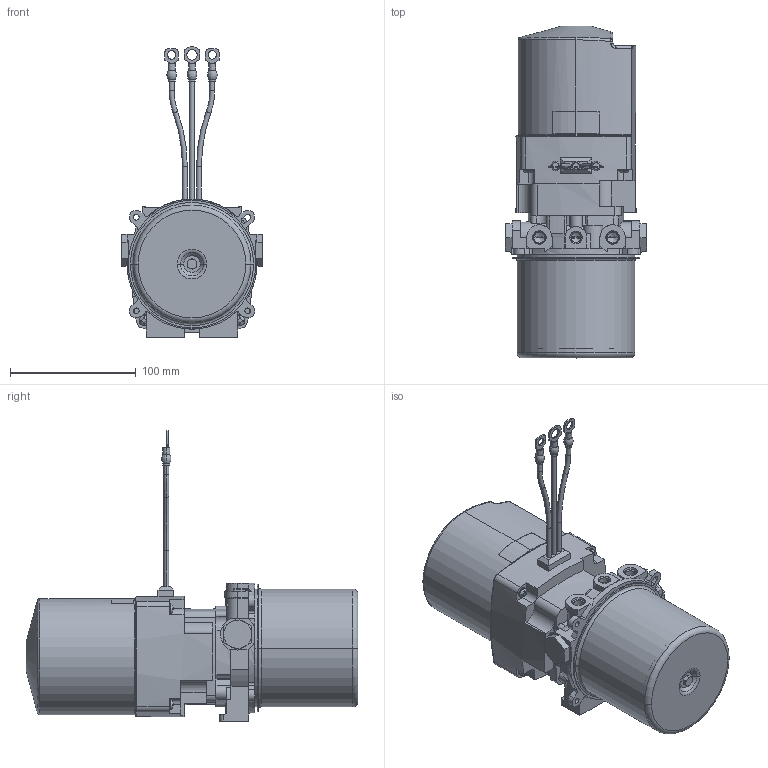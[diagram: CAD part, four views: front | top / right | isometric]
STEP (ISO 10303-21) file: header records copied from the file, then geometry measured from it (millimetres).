
FILE_DESCRIPTION((''),'2;1');
FILE_NAME('108-AM-BI-A_ASM_ASM','2013-05-02T',('da10877'),('OILDYNE'),'PRO/ENGINEER BY PARAMETRIC TECHNOLOGY CORPORATION, 2011490','PRO/ENGINEER BY PARAMETRIC TECHNOLOGY CORPORATION, 2011490','');
FILE_SCHEMA(('CONFIG_CONTROL_DESIGN'));
Length unit declared in the file: inch
Products named in the file (2): _108-AM-BI-A_ASM; 108-AM-BI-A_ASM_ASM
Assembly tree (1 placements, depth 2):
  108-AM-BI-A_ASM_ASM
    _108-AM-BI-A_ASM
Bounding box: 113.03 x 264.38 x 231.13 mm (x, y, z)
Volume: 1128027.7 mm3; surface area: 188702.2 mm2
Topology: 7 solids, 8 shells, 940 faces, 2438 edges, 1548 vertices
Faces by surface type: plane 436, cylinder 314, cone 94, torus 66, bspline 26, sphere 4
Entity records: 30192 total; most frequent: CARTESIAN_POINT 7039, DIRECTION 4856, ORIENTED_EDGE 4844, EDGE_CURVE 2424, AXIS2_PLACEMENT_3D 1776, VERTEX_POINT 1548, VECTOR 1304, LINE 1304
